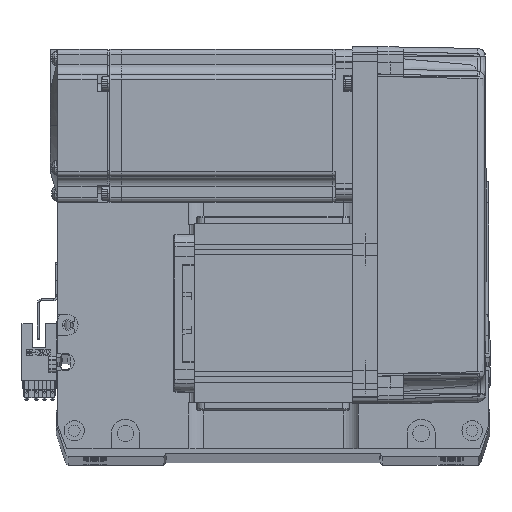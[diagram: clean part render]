
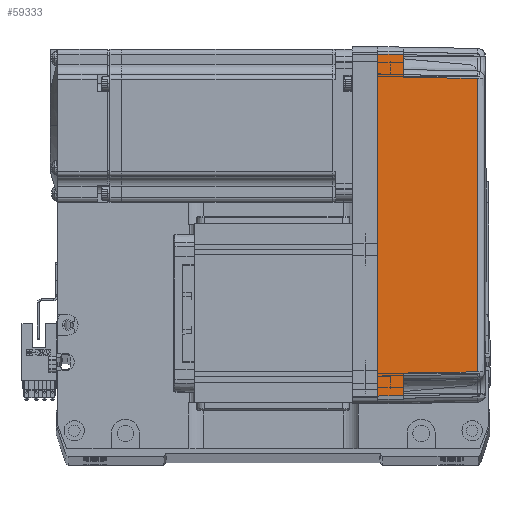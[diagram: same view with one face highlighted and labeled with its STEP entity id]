
A CAD part, top view. The second image highlights one B-rep face of the part: STEP entity #59333.
In plain terms, the highlighted planar face has unit normal (0.018, 0, 1) as drawn and (0, -1, 0.017) by its records, which use the part's own axes.
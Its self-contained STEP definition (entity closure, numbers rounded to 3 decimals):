
#1954 = CARTESIAN_POINT ( 'NONE',  ( -67., -36., 0. ) ) ;
#2437 = DIRECTION ( 'NONE',  ( -0.017, -0.017, -1. ) ) ;
#2655 = ORIENTED_EDGE ( 'NONE', *, *, #61094, .T. ) ;
#3303 = FACE_OUTER_BOUND ( 'NONE', #29427, .T. ) ;
#5813 = VECTOR ( 'NONE', #50828, 1000. ) ;
#6118 = EDGE_CURVE ( 'NONE', #34415, #65846, #41731, .T. ) ;
#9523 = VERTEX_POINT ( 'NONE', #16179 ) ;
#11328 = VECTOR ( 'NONE', #2437, 1000. ) ;
#12318 = LINE ( 'NONE', #49568, #13149 ) ;
#12373 = CARTESIAN_POINT ( 'NONE',  ( -57.495, -35.32, 38.985 ) ) ;
#12921 = LINE ( 'NONE', #12373, #11328 ) ;
#13149 = VECTOR ( 'NONE', #34140, 1000. ) ;
#13206 = VECTOR ( 'NONE', #47161, 1000. ) ;
#13551 = CARTESIAN_POINT ( 'NONE',  ( 70., -35.825, 10. ) ) ;
#15091 = EDGE_CURVE ( 'NONE', #65846, #45398, #47905, .T. ) ;
#15404 = CARTESIAN_POINT ( 'NONE',  ( -66.826, -35.825, 10. ) ) ;
#16179 = CARTESIAN_POINT ( 'NONE',  ( 67., -36., 0. ) ) ;
#16756 = CARTESIAN_POINT ( 'NONE',  ( 66.826, -35.825, 10. ) ) ;
#20350 = AXIS2_PLACEMENT_3D ( 'NONE', #55636, #61046, #40468 ) ;
#20758 = VECTOR ( 'NONE', #56834, 1000. ) ;
#23925 = LINE ( 'NONE', #13551, #55470 ) ;
#24855 = PLANE ( 'NONE',  #20350 ) ;
#27470 = CARTESIAN_POINT ( 'NONE',  ( -19.165, -35.316, 39.181 ) ) ;
#28356 = LINE ( 'NONE', #29975, #5813 ) ;
#29427 = EDGE_LOOP ( 'NONE', ( #2655, #60722, #57653, #37924, #64565, #54621, #45709, #62553 ) ) ;
#29975 = CARTESIAN_POINT ( 'NONE',  ( 67., -36., 0. ) ) ;
#30035 = EDGE_CURVE ( 'NONE', #45398, #58906, #12921, .T. ) ;
#34140 = DIRECTION ( 'NONE',  ( 0.017, 0.017, 1. ) ) ;
#34415 = VERTEX_POINT ( 'NONE', #64030 ) ;
#34425 = CARTESIAN_POINT ( 'NONE',  ( 58., -35.825, 10. ) ) ;
#34506 = LINE ( 'NONE', #62466, #20758 ) ;
#34592 = EDGE_CURVE ( 'NONE', #62692, #50065, #12318, .T. ) ;
#37924 = ORIENTED_EDGE ( 'NONE', *, *, #15091, .T. ) ;
#38558 = CARTESIAN_POINT ( 'NONE',  ( 19.165, -35.316, 39.181 ) ) ;
#38766 = CARTESIAN_POINT ( 'NONE',  ( 57.495, -35.32, 38.985 ) ) ;
#39863 = DIRECTION ( 'NONE',  ( -0.017, 0.017, 1. ) ) ;
#40468 = DIRECTION ( 'NONE',  ( 0., -0.017, -1. ) ) ;
#41731 = LINE ( 'NONE', #34425, #43357 ) ;
#43260 = EDGE_CURVE ( 'NONE', #58906, #50065, #34506, .T. ) ;
#43357 = VECTOR ( 'NONE', #39863, 1000. ) ;
#43968 = LINE ( 'NONE', #53028, #13206 ) ;
#45398 = VERTEX_POINT ( 'NONE', #52181 ) ;
#45709 = ORIENTED_EDGE ( 'NONE', *, *, #34592, .F. ) ;
#47161 = DIRECTION ( 'NONE',  ( -1., 0., 0. ) ) ;
#47905 = B_SPLINE_CURVE_WITH_KNOTS ( 'NONE', 3,
 ( #38766, #38558, #27470, #49026 ),
 .UNSPECIFIED., .F., .F.,
 ( 4, 4 ),
 ( 0., 1. ),
 .UNSPECIFIED. ) ;
#49026 = CARTESIAN_POINT ( 'NONE',  ( -57.495, -35.32, 38.985 ) ) ;
#49330 = EDGE_CURVE ( 'NONE', #9523, #62692, #43968, .T. ) ;
#49568 = CARTESIAN_POINT ( 'NONE',  ( -66.959, -35.958, 2.39 ) ) ;
#49750 = DIRECTION ( 'NONE',  ( -1., 0., 0. ) ) ;
#50065 = VERTEX_POINT ( 'NONE', #15404 ) ;
#50129 = CARTESIAN_POINT ( 'NONE',  ( 57.495, -35.32, 38.985 ) ) ;
#50828 = DIRECTION ( 'NONE',  ( -0.017, 0.017, 1. ) ) ;
#52181 = CARTESIAN_POINT ( 'NONE',  ( -57.495, -35.32, 38.985 ) ) ;
#53028 = CARTESIAN_POINT ( 'NONE',  ( 0., -36., 0. ) ) ;
#53909 = VERTEX_POINT ( 'NONE', #16756 ) ;
#53939 = EDGE_CURVE ( 'NONE', #53909, #34415, #23925, .T. ) ;
#54621 = ORIENTED_EDGE ( 'NONE', *, *, #43260, .T. ) ;
#55470 = VECTOR ( 'NONE', #49750, 1000. ) ;
#55636 = CARTESIAN_POINT ( 'NONE',  ( 70., -36., 0. ) ) ;
#56164 = CARTESIAN_POINT ( 'NONE',  ( -58., -35.825, 10. ) ) ;
#56834 = DIRECTION ( 'NONE',  ( -1., 0., 0. ) ) ;
#57653 = ORIENTED_EDGE ( 'NONE', *, *, #6118, .T. ) ;
#58906 = VERTEX_POINT ( 'NONE', #56164 ) ;
#59333 = ADVANCED_FACE ( 'NONE', ( #3303 ), #24855, .T. ) ;
#60722 = ORIENTED_EDGE ( 'NONE', *, *, #53939, .T. ) ;
#61046 = DIRECTION ( 'NONE',  ( 0., -1., 0.017 ) ) ;
#61094 = EDGE_CURVE ( 'NONE', #9523, #53909, #28356, .T. ) ;
#62466 = CARTESIAN_POINT ( 'NONE',  ( 70., -35.825, 10. ) ) ;
#62553 = ORIENTED_EDGE ( 'NONE', *, *, #49330, .F. ) ;
#62692 = VERTEX_POINT ( 'NONE', #1954 ) ;
#64030 = CARTESIAN_POINT ( 'NONE',  ( 58., -35.825, 10. ) ) ;
#64565 = ORIENTED_EDGE ( 'NONE', *, *, #30035, .T. ) ;
#65846 = VERTEX_POINT ( 'NONE', #50129 ) ;
